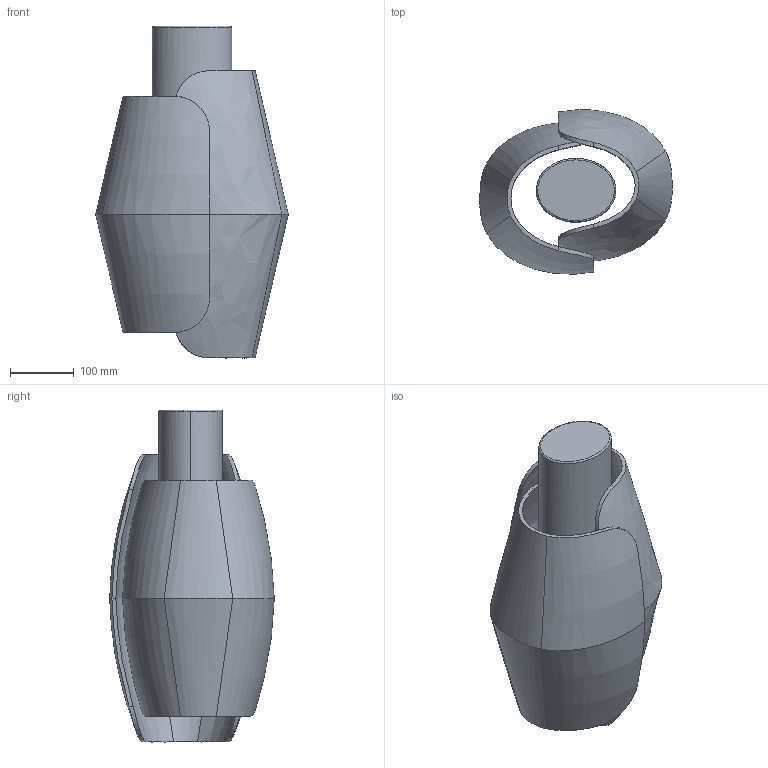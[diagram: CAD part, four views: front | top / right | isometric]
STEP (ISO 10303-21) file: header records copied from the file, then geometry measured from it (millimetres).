
FILE_DESCRIPTION (( 'STEP AP203' ), '1' );
FILE_NAME ('Volute - Table Lamp .STEP', '2023-03-30T23:09:37', ( '' ), ( '' ), 'SwSTEP 2.0', 'SolidWorks 2017', '' );
FILE_SCHEMA (( 'CONFIG_CONTROL_DESIGN' ));
Length unit declared in the file: millimetre
Products named in the file (1): Volute - Table Lamp 
Bounding box: 301.7 x 257.7 x 520 mm (x, y, z)
Volume: 3991088.9 mm3; surface area: 805471.4 mm2
Topology: 3 solids, 3 shells, 61 faces, 155 edges, 100 vertices
Faces by surface type: bspline 44, plane 7, cylinder 4, cone 2, sphere 2, torus 2
Entity records: 25402 total; most frequent: CARTESIAN_POINT 24252, ORIENTED_EDGE 300, EDGE_CURVE 150, B_SPLINE_CURVE_WITH_KNOTS 116, VERTEX_POINT 97, DIRECTION 84, EDGE_LOOP 63, FACE_OUTER_BOUND 61
